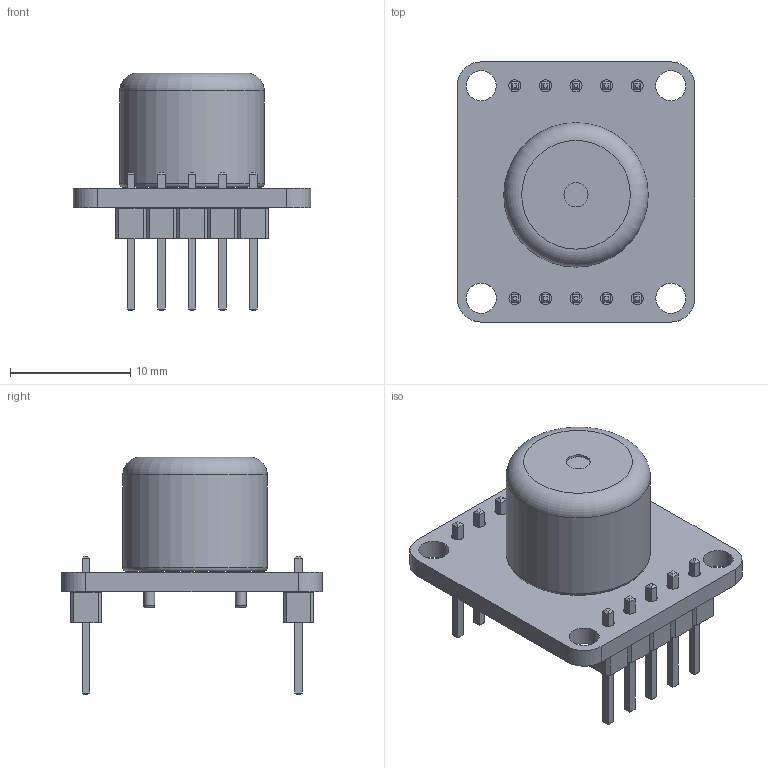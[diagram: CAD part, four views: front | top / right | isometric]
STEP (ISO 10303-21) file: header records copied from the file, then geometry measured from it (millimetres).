
FILE_DESCRIPTION(('KiCad electronic assembly'),'2;1');
FILE_NAME('STP_AXM0012.step','2024-11-12T16:19:21',('Pcbnew'),('Kicad'), 'Open CASCADE STEP processor 7.8','KiCad to STEP converter','Unknown' );
FILE_SCHEMA(('AUTOMOTIVE_DESIGN { 1 0 10303 214 1 1 1 1 }'));
Length unit declared in the file: millimetre
Products named in the file (6): STP_AXM0012 1; Buzzer_12x9.5RM7.6; Buzzer_12x95RM76; PinHeader_1x05_P2.54mm_Vertical; PinHeader_1x05_P254mm_Vertical; BuzzerActive_PCB
Assembly tree (6 placements, depth 3):
  STP_AXM0012 1
    Buzzer_12x9.5RM7.6
      Buzzer_12x95RM76
    PinHeader_1x05_P2.54mm_Vertical  x2
      PinHeader_1x05_P254mm_Vertical
    BuzzerActive_PCB
Bounding box: 19.74 x 21.64 x 19.77 mm (x, y, z)
Volume: 1888.2 mm3; surface area: 2110.4 mm2
Topology: 4 solids, 4 shells, 287 faces, 684 edges, 428 vertices
Faces by surface type: plane 259, cylinder 24, torus 4
Full cylindrical faces by diameter (mm): 0.9 x2, 1 x12, 2 x1, 2.5 x4, 12 x1
Entity records: 5748 total; most frequent: CARTESIAN_POINT 802, DIRECTION 784, ORIENTED_EDGE 776, EDGE_CURVE 388, LINE 332, VECTOR 332, VERTEX_POINT 244, AXIS2_PLACEMENT_3D 226
